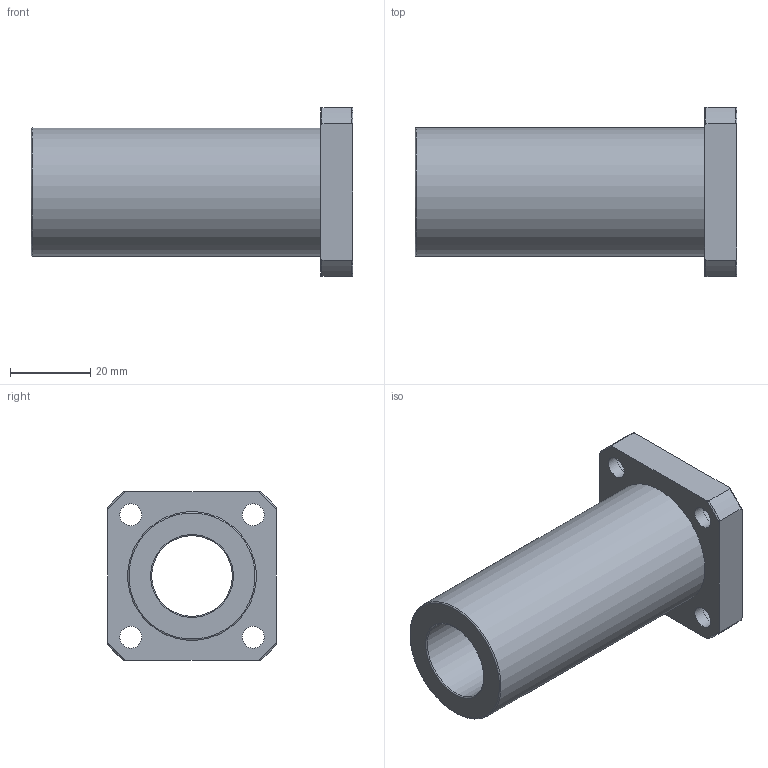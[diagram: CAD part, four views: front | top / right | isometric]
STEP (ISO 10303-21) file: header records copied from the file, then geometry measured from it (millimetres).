
FILE_DESCRIPTION(/* description */ (''),/* implementation_level */ '2;1');
FILE_NAME(/* name */ 'LMEK20LUU',/* time_stamp */ '2019-07-02T15:24:09+02:00',/* author */ ('VĂ©gh MĂˇtĂ©'),/* organization */ ('Bearing Kft'),/* preprocessor_version */ 'ST-DEVELOPER v16.7',/* originating_system */ 'DEX',/* authorisation */ $);
FILE_SCHEMA (('AUTOMOTIVE_DESIGN {1 0 10303 214 3 1 1}'));
Length unit declared in the file: millimetre
Products named in the file (1): LMEK20LUU
Bounding box: 80 x 42 x 42 mm (x, y, z)
Volume: 45061.5 mm3; surface area: 16949.6 mm2
Topology: 1 solids, 1 shells, 355 faces, 903 edges, 603 vertices
Faces by surface type: plane 269, bspline 59, cylinder 16, torus 11
Full cylindrical faces by diameter (mm): 5.5 x4, 9 x4, 20 x1, 32 x1
Entity records: 13490 total; most frequent: CARTESIAN_POINT 5329, ORIENTED_EDGE 1762, DIRECTION 1384, EDGE_CURVE 881, LINE 704, VECTOR 704, VERTEX_POINT 597, EDGE_LOOP 434
